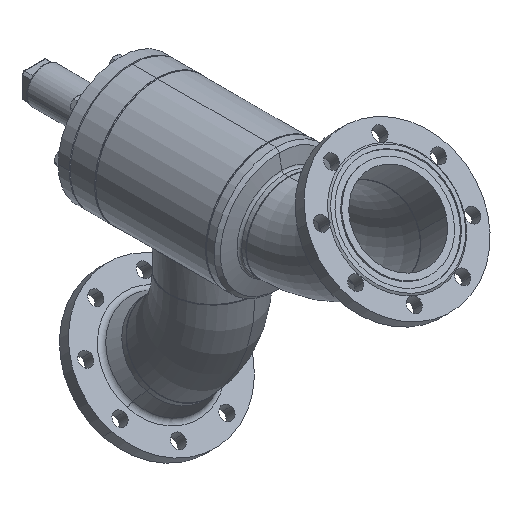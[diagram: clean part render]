
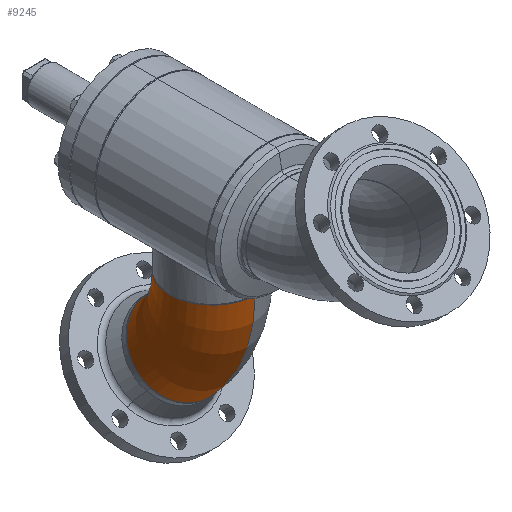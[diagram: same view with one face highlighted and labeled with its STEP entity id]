
A CAD part, isometric view. The second image highlights one B-rep face of the part: STEP entity #9245.
In plain terms, the highlighted toroidal (fillet/blend) face has major radius 229 mm and minor radius 84.15 mm.
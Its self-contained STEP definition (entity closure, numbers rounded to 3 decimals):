
#190 = CIRCLE ( 'NONE', #191, 313.15 ) ;
#191 = AXIS2_PLACEMENT_3D ( 'NONE', #192, #193, #194 ) ;
#192 = CARTESIAN_POINT ( 'NONE',  ( 0., -229., 0. ) ) ;
#193 = DIRECTION ( 'NONE',  ( 0., 0., 1. ) ) ;
#194 = DIRECTION ( 'NONE',  ( 1., 0., 0. ) ) ;
#1325 = CARTESIAN_POINT ( 'NONE',  ( 102.424, -126.576, 0. ) ) ;
#1456 = CARTESIAN_POINT ( 'NONE',  ( 221.43, -7.57, 0. ) ) ;
#1665 = CIRCLE ( 'NONE', #1666, 84.15 ) ;
#1666 = AXIS2_PLACEMENT_3D ( 'NONE', #1667, #1668, #1669 ) ;
#1667 = CARTESIAN_POINT ( 'NONE',  ( 161.927, -67.073, 0. ) ) ;
#1668 = DIRECTION ( 'NONE',  ( 0.707, -0.707, 0. ) ) ;
#1669 = DIRECTION ( 'NONE',  ( 0., 0., -1. ) ) ;
#2509 = EDGE_CURVE ( 'NONE', #5586, #3398, #9295, .T. ) ;
#2801 = FACE_OUTER_BOUND ( 'NONE', #9085, .T. ) ;
#2802 = TOROIDAL_SURFACE ( 'NONE', #2803, 229., 84.15 ) ;
#2803 = AXIS2_PLACEMENT_3D ( 'NONE', #2804, #2805, #2806 ) ;
#2804 = CARTESIAN_POINT ( 'NONE',  ( 0., -229., 0. ) ) ;
#2805 = DIRECTION ( 'NONE',  ( 0., 0., 1. ) ) ;
#2806 = DIRECTION ( 'NONE',  ( 1., 0., 0. ) ) ;
#2876 = ORIENTED_EDGE ( 'NONE', *, *, #2509, .F. ) ;
#3398 = VERTEX_POINT ( 'NONE', #10113 ) ;
#3616 = EDGE_CURVE ( 'NONE', #4495, #3398, #10379, .T. ) ;
#3979 = ORIENTED_EDGE ( 'NONE', *, *, #3616, .T. ) ;
#4495 = VERTEX_POINT ( 'NONE', #11521 ) ;
#4711 = EDGE_CURVE ( 'NONE', #5664, #4495, #190, .T. ) ;
#5079 = ORIENTED_EDGE ( 'NONE', *, *, #4711, .T. ) ;
#5586 = VERTEX_POINT ( 'NONE', #1325 ) ;
#5664 = VERTEX_POINT ( 'NONE', #1456 ) ;
#8229 = EDGE_CURVE ( 'NONE', #5664, #5586, #1665, .T. ) ;
#8606 = ORIENTED_EDGE ( 'NONE', *, *, #8229, .F. ) ;
#9085 = EDGE_LOOP ( 'NONE', ( #8606, #5079, #3979, #2876 ) ) ;
#9245 = ADVANCED_FACE ( 'NONE', ( #2801 ), #2802, .T. ) ;
#9295 = CIRCLE ( 'NONE', #9296, 144.85 ) ;
#9296 = AXIS2_PLACEMENT_3D ( 'NONE', #9297, #9298, #9299 ) ;
#9297 = CARTESIAN_POINT ( 'NONE',  ( 0., -229., 0. ) ) ;
#9298 = DIRECTION ( 'NONE',  ( 0., 0., 1. ) ) ;
#9299 = DIRECTION ( 'NONE',  ( 1., 0., 0. ) ) ;
#10113 = CARTESIAN_POINT ( 'NONE',  ( 0., -84.15, 0. ) ) ;
#10379 = CIRCLE ( 'NONE', #10380, 84.15 ) ;
#10380 = AXIS2_PLACEMENT_3D ( 'NONE', #10381, #10382, #10383 ) ;
#10381 = CARTESIAN_POINT ( 'NONE',  ( 0., 0., 0. ) ) ;
#10382 = DIRECTION ( 'NONE',  ( 1., 0., 0. ) ) ;
#10383 = DIRECTION ( 'NONE',  ( 0., 0., -1. ) ) ;
#11521 = CARTESIAN_POINT ( 'NONE',  ( 0., 84.15, 0. ) ) ;
